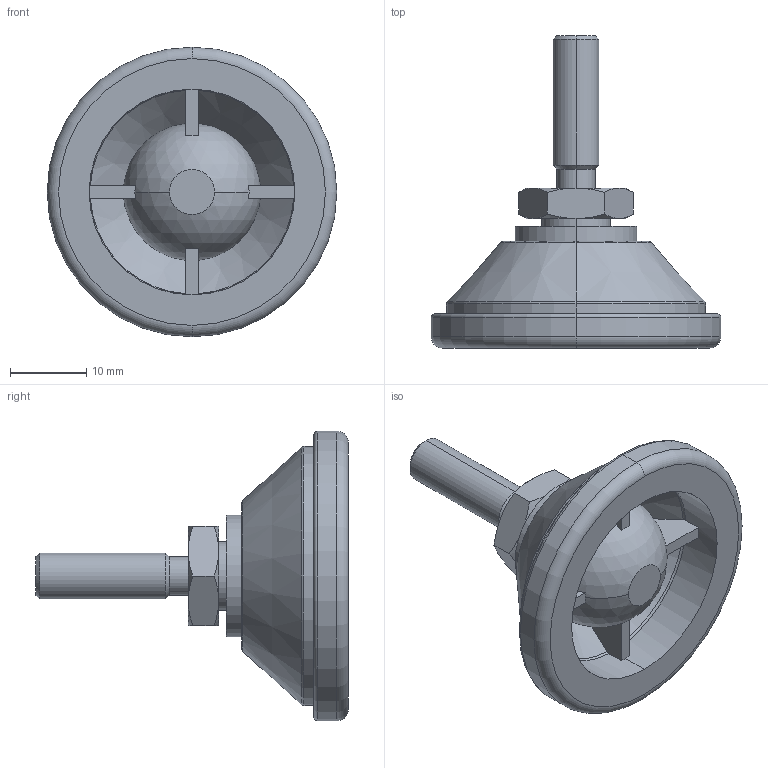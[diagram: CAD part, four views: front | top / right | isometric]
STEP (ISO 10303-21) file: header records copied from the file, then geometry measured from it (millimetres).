
FILE_DESCRIPTION (( 'STEP AP203' ), '1' );
FILE_NAME ('3472.W060.step', '2009-10-21T16:56:54', ( 'Wixroyd' ), ( 'Wixroyd' ), 'SwSTEP 2.0', 'SolidWorks 2009', '' );
FILE_SCHEMA (( 'CONFIG_CONTROL_DESIGN' ));
Length unit declared in the file: millimetre
Products named in the file (3): Part1_3472W060; Part2_3472W060; 3472.W060
Assembly tree (2 placements, depth 2):
  3472.W060
    Part1_3472W060
    Part2_3472W060
Bounding box: 38 x 41 x 38 mm (x, y, z)
Volume: 9258 mm3; surface area: 6291.4 mm2
Topology: 2 solids, 2 shells, 82 faces, 200 edges, 124 vertices
Faces by surface type: plane 26, cone 22, cylinder 16, torus 12, sphere 6
Entity records: 2787 total; most frequent: CARTESIAN_POINT 597, DIRECTION 432, ORIENTED_EDGE 382, AXIS2_PLACEMENT_3D 194, EDGE_CURVE 191, VERTEX_POINT 119, CIRCLE 107, EDGE_LOOP 88
